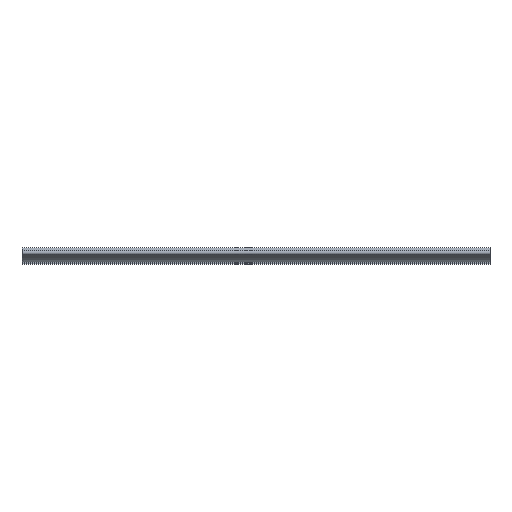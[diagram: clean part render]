
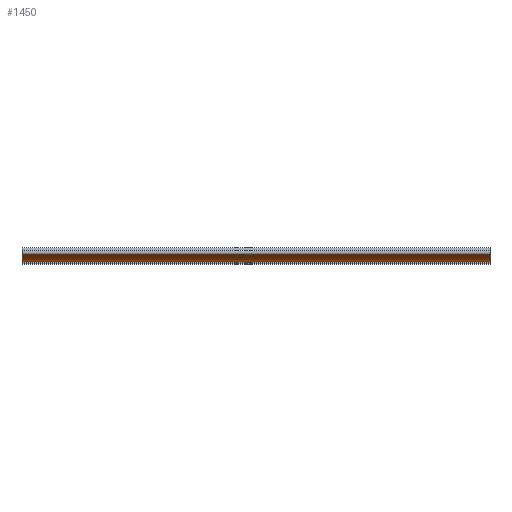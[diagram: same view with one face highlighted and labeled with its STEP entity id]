
A CAD part, front view. The second image highlights one B-rep face of the part: STEP entity #1450.
In plain terms, the highlighted cylindrical face has radius 13.79 mm (diameter 27.58 mm), a partial arc.
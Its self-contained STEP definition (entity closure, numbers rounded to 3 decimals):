
#31 = CYLINDRICAL_SURFACE ( 'NONE', #1774, 13.79 ) ;
#35 = DIRECTION ( 'NONE',  ( 1., 0., 0. ) ) ;
#91 = CARTESIAN_POINT ( 'NONE',  ( 200., 2.935, 10.749 ) ) ;
#96 = CARTESIAN_POINT ( 'NONE',  ( 0., -6.629, 0.814 ) ) ;
#147 = CARTESIAN_POINT ( 'NONE',  ( 0., 2.935, 10.749 ) ) ;
#164 = CARTESIAN_POINT ( 'NONE',  ( 200., -0.449, -2.62 ) ) ;
#303 = EDGE_CURVE ( 'NONE', #1697, #1420, #307, .T. ) ;
#307 = CIRCLE ( 'NONE', #567, 13.79 ) ;
#330 = DIRECTION ( 'NONE',  ( -1., 0., 0. ) ) ;
#352 = DIRECTION ( 'NONE',  ( 0., 0., -1. ) ) ;
#391 = ORIENTED_EDGE ( 'NONE', *, *, #958, .T. ) ;
#417 = ORIENTED_EDGE ( 'NONE', *, *, #303, .T. ) ;
#422 = DIRECTION ( 'NONE',  ( -1., 0., 0. ) ) ;
#447 = VECTOR ( 'NONE', #330, 1000. ) ;
#532 = DIRECTION ( 'NONE',  ( -1., 0., 0. ) ) ;
#567 = AXIS2_PLACEMENT_3D ( 'NONE', #147, #1340, #1197 ) ;
#589 = VERTEX_POINT ( 'NONE', #913 ) ;
#714 = CARTESIAN_POINT ( 'NONE',  ( 200., -6.629, 0.814 ) ) ;
#732 = VECTOR ( 'NONE', #422, 1000. ) ;
#747 = ORIENTED_EDGE ( 'NONE', *, *, #1622, .F. ) ;
#854 = DIRECTION ( 'NONE',  ( 0., 0., 1. ) ) ;
#913 = CARTESIAN_POINT ( 'NONE',  ( 200., -6.629, 0.814 ) ) ;
#958 = EDGE_CURVE ( 'NONE', #589, #1697, #1857, .T. ) ;
#974 = ORIENTED_EDGE ( 'NONE', *, *, #1106, .F. ) ;
#981 = CIRCLE ( 'NONE', #1464, 13.79 ) ;
#1106 = EDGE_CURVE ( 'NONE', #1849, #1420, #1549, .T. ) ;
#1197 = DIRECTION ( 'NONE',  ( 0., 0., -1. ) ) ;
#1240 = CARTESIAN_POINT ( 'NONE',  ( 0., -0.449, -2.62 ) ) ;
#1335 = CARTESIAN_POINT ( 'NONE',  ( 200., 2.935, 10.749 ) ) ;
#1340 = DIRECTION ( 'NONE',  ( 1., 0., 0. ) ) ;
#1362 = FACE_OUTER_BOUND ( 'NONE', #1534, .T. ) ;
#1420 = VERTEX_POINT ( 'NONE', #1240 ) ;
#1450 = ADVANCED_FACE ( 'NONE', ( #1362 ), #31, .T. ) ;
#1464 = AXIS2_PLACEMENT_3D ( 'NONE', #1335, #35, #352 ) ;
#1534 = EDGE_LOOP ( 'NONE', ( #417, #974, #747, #391 ) ) ;
#1549 = LINE ( 'NONE', #1700, #447 ) ;
#1622 = EDGE_CURVE ( 'NONE', #589, #1849, #981, .T. ) ;
#1697 = VERTEX_POINT ( 'NONE', #96 ) ;
#1700 = CARTESIAN_POINT ( 'NONE',  ( 200., -0.449, -2.62 ) ) ;
#1774 = AXIS2_PLACEMENT_3D ( 'NONE', #91, #532, #854 ) ;
#1849 = VERTEX_POINT ( 'NONE', #164 ) ;
#1857 = LINE ( 'NONE', #714, #732 ) ;
